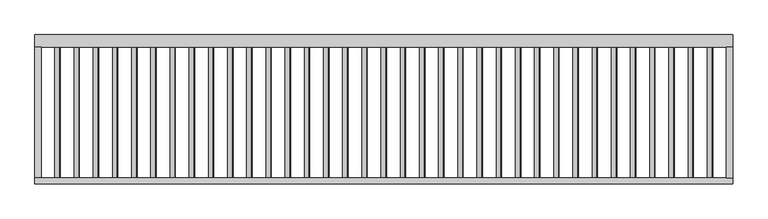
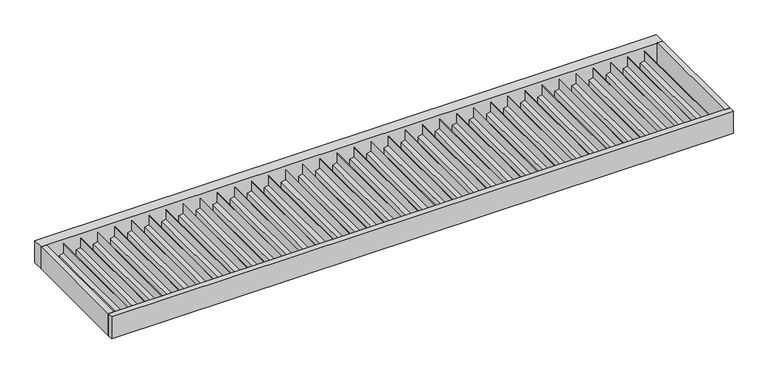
"""IFC4 building model written with IfcOpenShell, lengths in millimetres: proxy geometry, Renson_Amani_Canopy : Renson_Amani_Canopy."""

from ifc_helpers import new_model, si_unit, frame, origin, place, context, project, spatial, polyline, outline, extrude, source, transform, mapped, element, save


def generic_models_1e1d77a5(model_context):
    return source(origin(), model_context, "Body", "SweptSolid", [
        extrude(outline(polyline([(-99.0, 3855.0), (-150.0, 3855.0), (-150.0, 3885.0), (-27.0, 3885.0), (-27.0, 3883.0), (-92.0, 3883.0), (-99.0, 3855.0)])), frame((0.0, -820.0, 0.0), z_axis=(0.0, 1.0, 0.0), x_axis=(0.0, 0.0, 1.0)), (0.0, 0.0, 1.0), 750.0),
        extrude(outline(polyline([(-99.0, 3745.0), (-150.0, 3745.0), (-150.0, 3775.0), (-27.0, 3775.0), (-27.0, 3773.0), (-92.0, 3773.0), (-99.0, 3745.0)])), frame((0.0, -820.0, 0.0), z_axis=(0.0, 1.0, 0.0), x_axis=(0.0, 0.0, 1.0)), (0.0, 0.0, 1.0), 750.0),
        extrude(outline(polyline([(-99.0, 3635.0), (-150.0, 3635.0), (-150.0, 3665.0), (-27.0, 3665.0), (-27.0, 3663.0), (-92.0, 3663.0), (-99.0, 3635.0)])), frame((0.0, -820.0, 0.0), z_axis=(0.0, 1.0, 0.0), x_axis=(0.0, 0.0, 1.0)), (0.0, 0.0, 1.0), 750.0),
        extrude(outline(polyline([(-99.0, 3525.0), (-150.0, 3525.0), (-150.0, 3555.0), (-27.0, 3555.0), (-27.0, 3553.0), (-92.0, 3553.0), (-99.0, 3525.0)])), frame((0.0, -820.0, 0.0), z_axis=(0.0, 1.0, 0.0), x_axis=(0.0, 0.0, 1.0)), (0.0, 0.0, 1.0), 750.0),
        extrude(outline(polyline([(-99.0, 3415.0), (-150.0, 3415.0), (-150.0, 3445.0), (-27.0, 3445.0), (-27.0, 3443.0), (-92.0, 3443.0), (-99.0, 3415.0)])), frame((0.0, -820.0, 0.0), z_axis=(0.0, 1.0, 0.0), x_axis=(0.0, 0.0, 1.0)), (0.0, 0.0, 1.0), 750.0),
        extrude(outline(polyline([(-99.0, 3305.0), (-150.0, 3305.0), (-150.0, 3335.0), (-27.0, 3335.0), (-27.0, 3333.0), (-92.0, 3333.0), (-99.0, 3305.0)])), frame((0.0, -820.0, 0.0), z_axis=(0.0, 1.0, 0.0), x_axis=(0.0, 0.0, 1.0)), (0.0, 0.0, 1.0), 750.0),
        extrude(outline(polyline([(-99.0, 3195.0), (-150.0, 3195.0), (-150.0, 3225.0), (-27.0, 3225.0), (-27.0, 3223.0), (-92.0, 3223.0), (-99.0, 3195.0)])), frame((0.0, -820.0, 0.0), z_axis=(0.0, 1.0, 0.0), x_axis=(0.0, 0.0, 1.0)), (0.0, 0.0, 1.0), 750.0),
        extrude(outline(polyline([(-99.0, 3085.0), (-150.0, 3085.0), (-150.0, 3115.0), (-27.0, 3115.0), (-27.0, 3113.0), (-92.0, 3113.0), (-99.0, 3085.0)])), frame((0.0, -820.0, 0.0), z_axis=(0.0, 1.0, 0.0), x_axis=(0.0, 0.0, 1.0)), (0.0, 0.0, 1.0), 750.0),
        extrude(outline(polyline([(-99.0, 2975.0), (-150.0, 2975.0), (-150.0, 3005.0), (-27.0, 3005.0), (-27.0, 3003.0), (-92.0, 3003.0), (-99.0, 2975.0)])), frame((0.0, -820.0, 0.0), z_axis=(0.0, 1.0, 0.0), x_axis=(0.0, 0.0, 1.0)), (0.0, 0.0, 1.0), 750.0),
        extrude(outline(polyline([(-99.0, 2865.0), (-150.0, 2865.0), (-150.0, 2895.0), (-27.0, 2895.0), (-27.0, 2893.0), (-92.0, 2893.0), (-99.0, 2865.0)])), frame((0.0, -820.0, 0.0), z_axis=(0.0, 1.0, 0.0), x_axis=(0.0, 0.0, 1.0)), (0.0, 0.0, 1.0), 750.0),
        extrude(outline(polyline([(-99.0, 2755.0), (-150.0, 2755.0), (-150.0, 2785.0), (-27.0, 2785.0), (-27.0, 2783.0), (-92.0, 2783.0), (-99.0, 2755.0)])), frame((0.0, -820.0, 0.0), z_axis=(0.0, 1.0, 0.0), x_axis=(0.0, 0.0, 1.0)), (0.0, 0.0, 1.0), 750.0),
        extrude(outline(polyline([(-99.0, 2645.0), (-150.0, 2645.0), (-150.0, 2675.0), (-27.0, 2675.0), (-27.0, 2673.0), (-92.0, 2673.0), (-99.0, 2645.0)])), frame((0.0, -820.0, 0.0), z_axis=(0.0, 1.0, 0.0), x_axis=(0.0, 0.0, 1.0)), (0.0, 0.0, 1.0), 750.0),
        extrude(outline(polyline([(-99.0, 2535.0), (-150.0, 2535.0), (-150.0, 2565.0), (-27.0, 2565.0), (-27.0, 2563.0), (-92.0, 2563.0), (-99.0, 2535.0)])), frame((0.0, -820.0, 0.0), z_axis=(0.0, 1.0, 0.0), x_axis=(0.0, 0.0, 1.0)), (0.0, 0.0, 1.0), 750.0),
        extrude(outline(polyline([(-99.0, 2425.0), (-150.0, 2425.0), (-150.0, 2455.0), (-27.0, 2455.0), (-27.0, 2453.0), (-92.0, 2453.0), (-99.0, 2425.0)])), frame((0.0, -820.0, 0.0), z_axis=(0.0, 1.0, 0.0), x_axis=(0.0, 0.0, 1.0)), (0.0, 0.0, 1.0), 750.0),
        extrude(outline(polyline([(-99.0, 2315.0), (-150.0, 2315.0), (-150.0, 2345.0), (-27.0, 2345.0), (-27.0, 2343.0), (-92.0, 2343.0), (-99.0, 2315.0)])), frame((0.0, -820.0, 0.0), z_axis=(0.0, 1.0, 0.0), x_axis=(0.0, 0.0, 1.0)), (0.0, 0.0, 1.0), 750.0),
        extrude(outline(polyline([(-99.0, 2205.0), (-150.0, 2205.0), (-150.0, 2235.0), (-27.0, 2235.0), (-27.0, 2233.0), (-92.0, 2233.0), (-99.0, 2205.0)])), frame((0.0, -820.0, 0.0), z_axis=(0.0, 1.0, 0.0), x_axis=(0.0, 0.0, 1.0)), (0.0, 0.0, 1.0), 750.0),
        extrude(outline(polyline([(-99.0, 2095.0), (-150.0, 2095.0), (-150.0, 2125.0), (-27.0, 2125.0), (-27.0, 2123.0), (-92.0, 2123.0), (-99.0, 2095.0)])), frame((0.0, -820.0, 0.0), z_axis=(0.0, 1.0, 0.0), x_axis=(0.0, 0.0, 1.0)), (0.0, 0.0, 1.0), 750.0),
        extrude(outline(polyline([(-99.0, 1985.0), (-150.0, 1985.0), (-150.0, 2015.0), (-27.0, 2015.0), (-27.0, 2013.0), (-92.0, 2013.0), (-99.0, 1985.0)])), frame((0.0, -820.0, 0.0), z_axis=(0.0, 1.0, 0.0), x_axis=(0.0, 0.0, 1.0)), (0.0, 0.0, 1.0), 750.0),
        extrude(outline(polyline([(-99.0, 1875.0), (-150.0, 1875.0), (-150.0, 1905.0), (-27.0, 1905.0), (-27.0, 1903.0), (-92.0, 1903.0), (-99.0, 1875.0)])), frame((0.0, -820.0, 0.0), z_axis=(0.0, 1.0, 0.0), x_axis=(0.0, 0.0, 1.0)), (0.0, 0.0, 1.0), 750.0),
        extrude(outline(polyline([(-99.0, 1765.0), (-150.0, 1765.0), (-150.0, 1795.0), (-27.0, 1795.0), (-27.0, 1793.0), (-92.0, 1793.0), (-99.0, 1765.0)])), frame((0.0, -820.0, 0.0), z_axis=(0.0, 1.0, 0.0), x_axis=(0.0, 0.0, 1.0)), (0.0, 0.0, 1.0), 750.0),
        extrude(outline(polyline([(-99.0, 1655.0), (-150.0, 1655.0), (-150.0, 1685.0), (-27.0, 1685.0), (-27.0, 1683.0), (-92.0, 1683.0), (-99.0, 1655.0)])), frame((0.0, -820.0, 0.0), z_axis=(0.0, 1.0, 0.0), x_axis=(0.0, 0.0, 1.0)), (0.0, 0.0, 1.0), 750.0),
        extrude(outline(polyline([(-99.0, 1545.0), (-150.0, 1545.0), (-150.0, 1575.0), (-27.0, 1575.0), (-27.0, 1573.0), (-92.0, 1573.0), (-99.0, 1545.0)])), frame((0.0, -820.0, 0.0), z_axis=(0.0, 1.0, 0.0), x_axis=(0.0, 0.0, 1.0)), (0.0, 0.0, 1.0), 750.0),
        extrude(outline(polyline([(-99.0, 1435.0), (-150.0, 1435.0), (-150.0, 1465.0), (-27.0, 1465.0), (-27.0, 1463.0), (-92.0, 1463.0), (-99.0, 1435.0)])), frame((0.0, -820.0, 0.0), z_axis=(0.0, 1.0, 0.0), x_axis=(0.0, 0.0, 1.0)), (0.0, 0.0, 1.0), 750.0),
        extrude(outline(polyline([(-99.0, 1325.0), (-150.0, 1325.0), (-150.0, 1355.0), (-27.0, 1355.0), (-27.0, 1353.0), (-92.0, 1353.0), (-99.0, 1325.0)])), frame((0.0, -820.0, 0.0), z_axis=(0.0, 1.0, 0.0), x_axis=(0.0, 0.0, 1.0)), (0.0, 0.0, 1.0), 750.0),
        extrude(outline(polyline([(-99.0, 1215.0), (-150.0, 1215.0), (-150.0, 1245.0), (-27.0, 1245.0), (-27.0, 1243.0), (-92.0, 1243.0), (-99.0, 1215.0)])), frame((0.0, -820.0, 0.0), z_axis=(0.0, 1.0, 0.0), x_axis=(0.0, 0.0, 1.0)), (0.0, 0.0, 1.0), 750.0),
        extrude(outline(polyline([(-99.0, 1105.0), (-150.0, 1105.0), (-150.0, 1135.0), (-27.0, 1135.0), (-27.0, 1133.0), (-92.0, 1133.0), (-99.0, 1105.0)])), frame((0.0, -820.0, 0.0), z_axis=(0.0, 1.0, 0.0), x_axis=(0.0, 0.0, 1.0)), (0.0, 0.0, 1.0), 750.0),
        extrude(outline(polyline([(-99.0, 995.0), (-150.0, 995.0), (-150.0, 1025.0), (-27.0, 1025.0), (-27.0, 1023.0), (-92.0, 1023.0), (-99.0, 995.0)])), frame((0.0, -820.0, 0.0), z_axis=(0.0, 1.0, 0.0), x_axis=(0.0, 0.0, 1.0)), (0.0, 0.0, 1.0), 750.0),
        extrude(outline(polyline([(-99.0, 885.0), (-150.0, 885.0), (-150.0, 915.0), (-27.0, 915.0), (-27.0, 913.0), (-92.0, 913.0), (-99.0, 885.0)])), frame((0.0, -820.0, 0.0), z_axis=(0.0, 1.0, 0.0), x_axis=(0.0, 0.0, 1.0)), (0.0, 0.0, 1.0), 750.0),
        extrude(outline(polyline([(-99.0, 775.0), (-150.0, 775.0), (-150.0, 805.0), (-27.0, 805.0), (-27.0, 803.0), (-92.0, 803.0), (-99.0, 775.0)])), frame((0.0, -820.0, 0.0), z_axis=(0.0, 1.0, 0.0), x_axis=(0.0, 0.0, 1.0)), (0.0, 0.0, 1.0), 750.0),
        extrude(outline(polyline([(-99.0, 665.0), (-150.0, 665.0), (-150.0, 695.0), (-27.0, 695.0), (-27.0, 693.0), (-92.0, 693.0), (-99.0, 665.0)])), frame((0.0, -820.0, 0.0), z_axis=(0.0, 1.0, 0.0), x_axis=(0.0, 0.0, 1.0)), (0.0, 0.0, 1.0), 750.0),
        extrude(outline(polyline([(-99.0, 555.0), (-150.0, 555.0), (-150.0, 585.0), (-27.0, 585.0), (-27.0, 583.0), (-92.0, 583.0), (-99.0, 555.0)])), frame((0.0, -820.0, 0.0), z_axis=(0.0, 1.0, 0.0), x_axis=(0.0, 0.0, 1.0)), (0.0, 0.0, 1.0), 750.0),
        extrude(outline(polyline([(-99.0, 445.0), (-150.0, 445.0), (-150.0, 475.0), (-27.0, 475.0), (-27.0, 473.0), (-92.0, 473.0), (-99.0, 445.0)])), frame((0.0, -820.0, 0.0), z_axis=(0.0, 1.0, 0.0), x_axis=(0.0, 0.0, 1.0)), (0.0, 0.0, 1.0), 750.0),
        extrude(outline(polyline([(-99.0, 335.0), (-150.0, 335.0), (-150.0, 365.0), (-27.0, 365.0), (-27.0, 363.0), (-92.0, 363.0), (-99.0, 335.0)])), frame((0.0, -820.0, 0.0), z_axis=(0.0, 1.0, 0.0), x_axis=(0.0, 0.0, 1.0)), (0.0, 0.0, 1.0), 750.0),
        extrude(outline(polyline([(-99.0, 225.0), (-150.0, 225.0), (-150.0, 255.0), (-27.0, 255.0), (-27.0, 253.0), (-92.0, 253.0), (-99.0, 225.0)])), frame((0.0, -820.0, 0.0), z_axis=(0.0, 1.0, 0.0), x_axis=(0.0, 0.0, 1.0)), (0.0, 0.0, 1.0), 750.0),
        extrude(outline(polyline([(-99.0, 115.0), (-150.0, 115.0), (-150.0, 145.0), (-27.0, 145.0), (-27.0, 143.0), (-92.0, 143.0), (-99.0, 115.0)])), frame((0.0, -820.0, 0.0), z_axis=(0.0, 1.0, 0.0), x_axis=(0.0, 0.0, 1.0)), (0.0, 0.0, 1.0), 750.0),
        extrude(outline(polyline([(4000.0, -70.0), (4000.0, -820.0), (3965.0, -820.0), (3965.0, -70.0), (4000.0, -70.0)])), frame((0.0, 0.0, -150.0), z_axis=(0.0, 0.0, 1.0), x_axis=(1.0, 0.0, 0.0)), (0.0, 0.0, 1.0), 150.0),
        extrude(outline(polyline([(4000.0, -855.0), (0.0, -855.0), (0.0, -820.0), (4000.0, -820.0), (4000.0, -855.0)])), frame((0.0, 0.0, -150.0), z_axis=(0.0, 0.0, 1.0), x_axis=(1.0, 0.0, 0.0)), (0.0, 0.0, 1.0), 150.0),
        extrude(outline(polyline([(35.0, -70.0), (35.0, -820.0), (0.0, -820.0), (0.0, -70.0), (35.0, -70.0)])), frame((0.0, 0.0, -150.0), z_axis=(0.0, 0.0, 1.0), x_axis=(1.0, 0.0, 0.0)), (0.0, 0.0, 1.0), 150.0),
        extrude(outline(polyline([(4000.0, -70.0), (0.0, -70.0), (0.0, 0.0), (4000.0, 0.0), (4000.0, -70.0)])), frame((0.0, 0.0, -150.0), z_axis=(0.0, 0.0, 1.0), x_axis=(1.0, 0.0, 0.0)), (0.0, 0.0, 1.0), 150.0),
    ])


if __name__ == "__main__":
    model = new_model("IFC4")
    model_context = context("Model", 3, world=origin())
    ifc_project = project(units=[si_unit("LENGTHUNIT", "METRE", prefix="MILLI")], contexts=[model_context])
    site = spatial("IfcSite", under=ifc_project)
    building = spatial("IfcBuilding", under=site)
    placement = place(None, origin())
    generic_models_shape = generic_models_1e1d77a5(model_context)
    element("IfcBuildingElementProxy", 1, Name="Renson_Amani_Canopy : Renson_Amani_Canopy", ObjectType="Renson_Amani_Canopy : Renson_Amani_Canopy", at=placement, inside=building, context=model_context, shape_type="MappedRepresentation", body=[
        mapped(generic_models_shape, transform((0.0, 0.0, 0.0), x_axis=(1.0, 0.0, 0.0), y_axis=(0.0, 1.0, 0.0), z_axis=(0.0, 0.0, 1.0))),
    ])
    save(model, "model.ifc")
